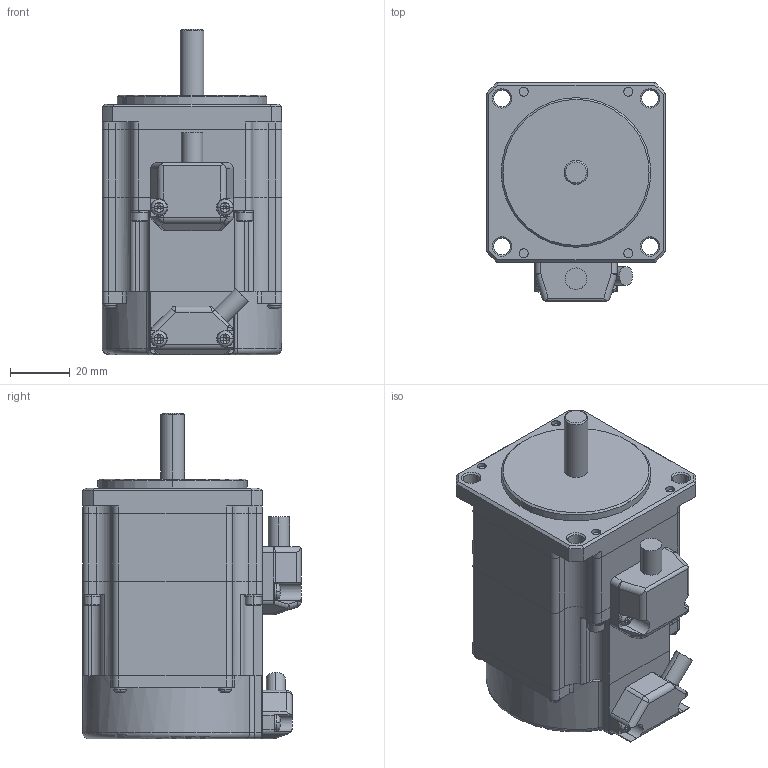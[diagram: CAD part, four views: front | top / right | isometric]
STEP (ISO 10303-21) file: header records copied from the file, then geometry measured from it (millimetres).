
FILE_DESCRIPTION(('Creo Elements/Direct Modeling STEP Export'),'2;1');
FILE_NAME('TS4606_BK有.stp','2016-12-22T16:30:57',(''),(''),'Creo Elements/Direct Modeling STEP processor for AP214 (Solid Model)','Creo Elements/Direct Modeling 17.0F 20-Aug-2012 (C) Parametric Technology GmbH','');
FILE_SCHEMA(('AUTOMOTIVE_DESIGN { 1 0 10303 214 1 1 1 1 }'));
Length unit declared in the file: millimetre
Products named in the file (1): TS4606N6000
Bounding box: 60 x 73 x 108.8 mm (x, y, z)
Volume: 278929.8 mm3; surface area: 29263.6 mm2
Topology: 1 solids, 1 shells, 687 faces, 1579 edges, 893 vertices
Faces by surface type: plane 326, cylinder 229, cone 80, sphere 29, torus 21, bspline 2
Entity records: 19091 total; most frequent: CARTESIAN_POINT 4306, DIRECTION 3141, ORIENTED_EDGE 3116, EDGE_CURVE 1558, AXIS2_PLACEMENT_3D 1234, VERTEX_POINT 893, EDGE_LOOP 715, FACE_OUTER_BOUND 687
